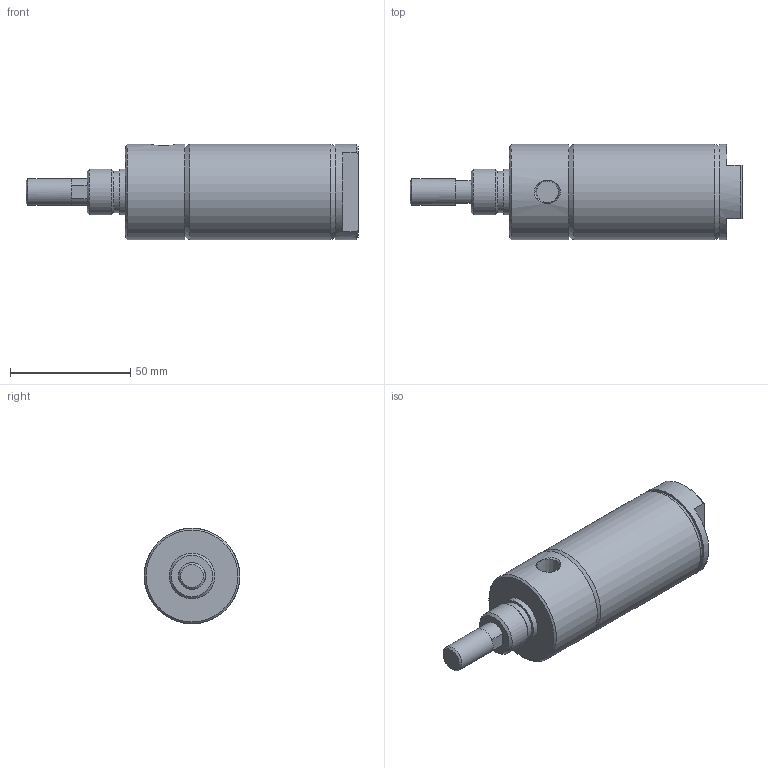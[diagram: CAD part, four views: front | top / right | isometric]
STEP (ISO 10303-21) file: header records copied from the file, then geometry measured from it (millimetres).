
FILE_DESCRIPTION( ( 'STEP AP214' ), '1' );
FILE_NAME( 'p:/temp/worker_456/temp/exporttempdir_5400_350_8WVLv/format_0/1500D01-01A-03.stp', '2020-05-07T18:29:41', ( 'License CC BY-ND 4.0' ), ( 'CADENAS' ), ' ', 'PARTsolutions', ' ' );
FILE_SCHEMA( ( 'AUTOMOTIVE_DESIGN { 1 0 10303 214 1 1 1 1 }' ) );
Length unit declared in the file: inch
Products named in the file (3): 1500D01-01A-03; _1500D01-01A-0300A00A0b; _1500D01-01A-030r
Assembly tree (2 placements, depth 2):
  1500D01-01A-03
    _1500D01-01A-0300A00A0b
    _1500D01-01A-030r
Bounding box: 138.13 x 39.73 x 39.73 mm (x, y, z)
Volume: 95987.7 mm3; surface area: 36409.5 mm2
Topology: 2 solids, 2 shells, 50 faces, 96 edges, 60 vertices
Faces by surface type: plane 26, cone 12, cylinder 12
Full cylindrical faces by diameter (mm): 11.112 x1, 11.125 x3, 17.178 x1, 19.025 x1, 19.05 x1, 38.1 x2, 39.7 x2, 39.726 x1
Entity records: 1653 total; most frequent: CARTESIAN_POINT 265, DIRECTION 216, ORIENTED_EDGE 140, AXIS2_PLACEMENT_3D 98, EDGE_LOOP 82, EDGE_CURVE 70, FACE_OUTER_BOUND 62, VERTEX_POINT 56
